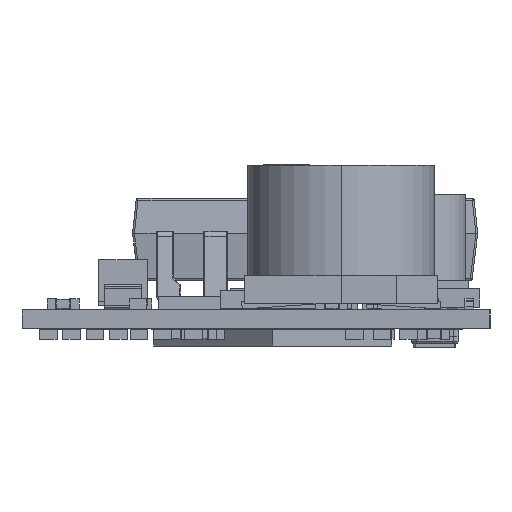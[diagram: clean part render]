
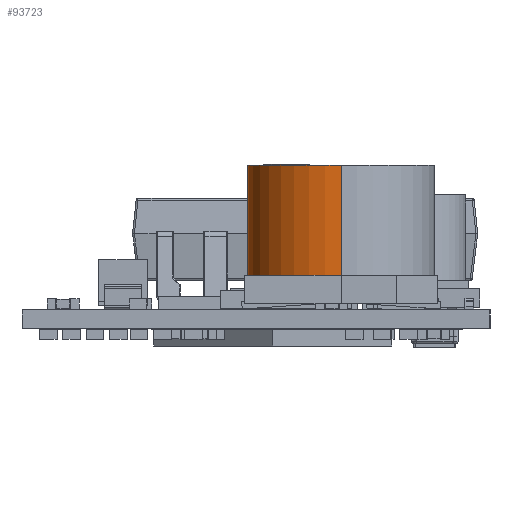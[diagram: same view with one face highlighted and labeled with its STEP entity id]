
A CAD part, left-side view. The second image highlights one B-rep face of the part: STEP entity #93723.
In plain terms, the highlighted cylindrical face has radius 5 mm (diameter 10 mm), a partial arc.
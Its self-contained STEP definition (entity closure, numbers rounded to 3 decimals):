
#93677=DIRECTION('',(0.,0.,7.39));
#93678=DIRECTION('',(0.,0.,-7.39));
#93679=DIRECTION('',(5.,0.,0.));
#93680=CARTESIAN_POINT('',(6.25,7.95,8.235));
#93681=AXIS2_PLACEMENT_3D('',#93680,#93677,#93679);
#93682=CIRCLE('',#93681,5.);
#93683=CARTESIAN_POINT('',(6.25,7.95,0.845));
#93684=AXIS2_PLACEMENT_3D('',#93683,#93678,#93679);
#93685=CIRCLE('',#93684,5.);
#93686=CARTESIAN_POINT('',(11.25,7.95,8.235));
#93687=VERTEX_POINT('',#93686);
#93688=CARTESIAN_POINT('',(1.25,7.95,8.235));
#93689=VERTEX_POINT('',#93688);
#93690=CARTESIAN_POINT('',(11.25,7.95,0.845));
#93691=VERTEX_POINT('',#93690);
#93692=CARTESIAN_POINT('',(1.25,7.95,0.845));
#93693=VERTEX_POINT('',#93692);
#93694=EDGE_CURVE('',#93687,#93689,#93682,.T.);
#93696=ORIENTED_EDGE('',*,*,#93694,.F.);
#93702=DIRECTION('',(0.,0.,7.39));
#93703=VECTOR('',#93702,1.);
#93704=LINE('',#93690,#93703);
#93705=EDGE_CURVE('',#93691,#93687,#93704,.T.);
#93707=ORIENTED_EDGE('',*,*,#93705,.F.);
#93708=LINE('',#93692,#93703);
#93709=EDGE_CURVE('',#93693,#93689,#93708,.T.);
#93710=ORIENTED_EDGE('',*,*,#93709,.T.);
#93715=EDGE_CURVE('',#93693,#93691,#93685,.T.);
#93717=ORIENTED_EDGE('',*,*,#93715,.F.);
#93720=EDGE_LOOP('',(#93696,#93707,#93717,#93710));
#93721=FACE_BOUND('',#93720,.T.);
#93722=CYLINDRICAL_SURFACE('',#93684,5.);
#93723=ADVANCED_FACE('',(#93721),#93722,.T.);
